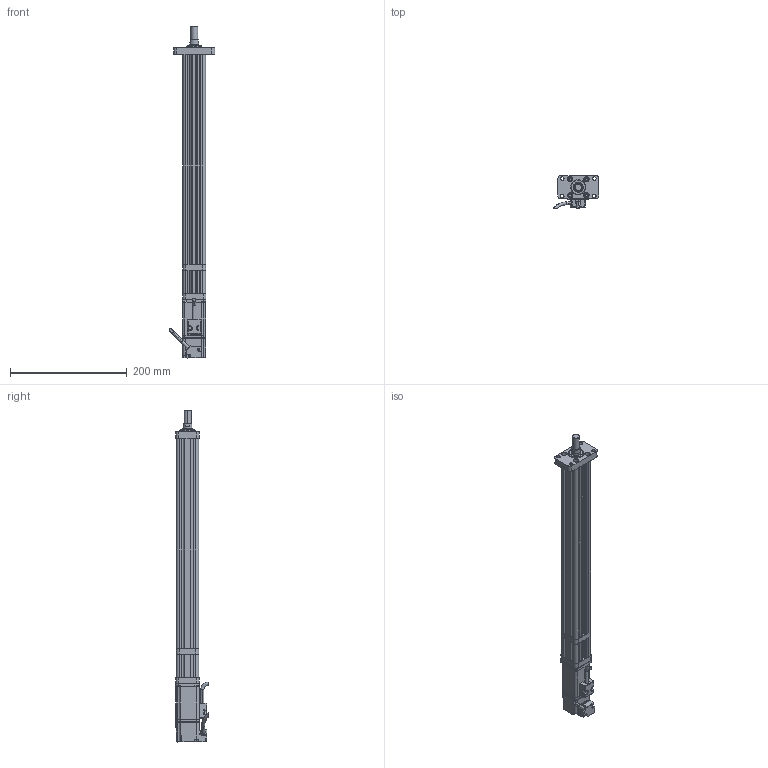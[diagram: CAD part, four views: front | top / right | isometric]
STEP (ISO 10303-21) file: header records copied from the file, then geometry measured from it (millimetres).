
FILE_DESCRIPTION (( 'STEP AP214' ), '1' );
FILE_NAME ('039-S300-D02-A-M3-C1-2.STEP', '2021-03-02T05:27:18', ( '' ), ( '' ), 'SwSTEP 2.0', 'SolidWorks 2018', '' );
FILE_SCHEMA (( 'AUTOMOTIVE_DESIGN' ));
Length unit declared in the file: millimetre
Products named in the file (8): ECMA-CX0401ES-40框號系列機種-100W低慣量系列; CMC039-AZB; CMC039-ZLLJB; CMC039-DJZ; CMC039-DT; 039-S300-D02-A-M3-C1-2; CMC039-FL1; CMC039-GT
Assembly tree (7 placements, depth 2):
  039-S300-D02-A-M3-C1-2
    CMC039-GT
    CMC039-DT
    CMC039-ZLLJB
    CMC039-DJZ
    ECMA-CX0401ES-40框號系列機種-100W低慣量系列
    CMC039-AZB
    CMC039-FL1
Bounding box: 77.84 x 55.39 x 569.6 mm (x, y, z)
Volume: 563651.3 mm3; surface area: 184576.8 mm2
Topology: 7 solids, 15 shells, 716 faces, 1884 edges, 1183 vertices
Faces by surface type: cylinder 298, plane 293, bspline 84, cone 41
Entity records: 28264 total; most frequent: CARTESIAN_POINT 11275, ORIENTED_EDGE 3702, DIRECTION 3045, EDGE_CURVE 1851, VERTEX_POINT 1183, AXIS2_PLACEMENT_3D 1040, VECTOR 965, LINE 965
